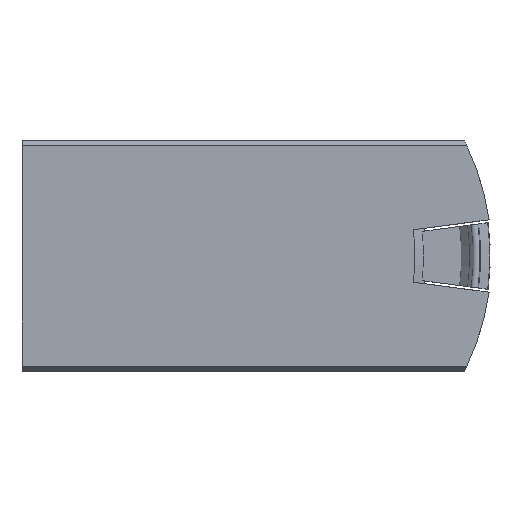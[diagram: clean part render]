
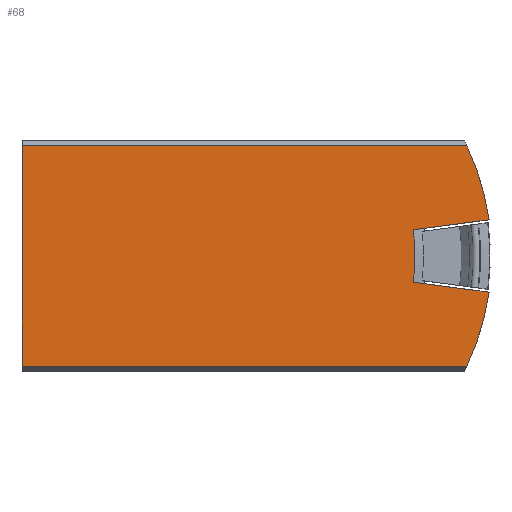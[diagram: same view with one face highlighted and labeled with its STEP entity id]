
A CAD part, top view. The second image highlights one B-rep face of the part: STEP entity #68.
In plain terms, the highlighted planar face has unit normal (0, 0, 1).
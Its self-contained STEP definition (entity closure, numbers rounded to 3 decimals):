
#55=PLANE('',#521);
#68=ADVANCED_FACE('',(#98),#55,.T.);
#98=FACE_OUTER_BOUND('',#124,.T.);
#124=EDGE_LOOP('',(#189,#190,#191,#192,#193,#194,#195,#196));
#153=CIRCLE('',#518,33.);
#154=CIRCLE('',#519,47.);
#155=CIRCLE('',#520,47.);
#189=ORIENTED_EDGE('',*,*,#380,.T.);
#190=ORIENTED_EDGE('',*,*,#381,.T.);
#191=ORIENTED_EDGE('',*,*,#382,.F.);
#192=ORIENTED_EDGE('',*,*,#383,.T.);
#193=ORIENTED_EDGE('',*,*,#384,.F.);
#194=ORIENTED_EDGE('',*,*,#385,.F.);
#195=ORIENTED_EDGE('',*,*,#386,.F.);
#196=ORIENTED_EDGE('',*,*,#387,.T.);
#331=VERTEX_POINT('',#748);
#332=VERTEX_POINT('',#749);
#333=VERTEX_POINT('',#751);
#334=VERTEX_POINT('',#753);
#335=VERTEX_POINT('',#755);
#336=VERTEX_POINT('',#757);
#337=VERTEX_POINT('',#759);
#338=VERTEX_POINT('',#761);
#380=EDGE_CURVE('',#331,#332,#153,.T.);
#381=EDGE_CURVE('',#332,#333,#447,.T.);
#382=EDGE_CURVE('',#334,#333,#154,.T.);
#383=EDGE_CURVE('',#334,#335,#448,.T.);
#384=EDGE_CURVE('',#336,#335,#449,.T.);
#385=EDGE_CURVE('',#337,#336,#450,.T.);
#386=EDGE_CURVE('',#338,#337,#155,.T.);
#387=EDGE_CURVE('',#338,#331,#451,.T.);
#447=LINE('',#750,#483);
#448=LINE('',#754,#484);
#449=LINE('',#756,#485);
#450=LINE('',#758,#486);
#451=LINE('',#762,#487);
#483=VECTOR('',#594,1.);
#484=VECTOR('',#597,1.);
#485=VECTOR('',#598,1.);
#486=VECTOR('',#599,1.);
#487=VECTOR('',#602,1.);
#518=AXIS2_PLACEMENT_3D('',#747,#592,#593);
#519=AXIS2_PLACEMENT_3D('',#752,#595,#596);
#520=AXIS2_PLACEMENT_3D('',#760,#600,#601);
#521=AXIS2_PLACEMENT_3D('',#763,#603,#604);
#592=DIRECTION('',(0.,0.,1.));
#593=DIRECTION('',(1.,0.,0.));
#594=DIRECTION('',(0.991,0.131,0.));
#595=DIRECTION('',(0.,0.,-1.));
#596=DIRECTION('',(1.,0.,0.));
#597=DIRECTION('',(-1.,0.,0.));
#598=DIRECTION('',(0.,1.,0.));
#599=DIRECTION('',(-1.,0.,0.));
#600=DIRECTION('',(0.,0.,-1.));
#601=DIRECTION('',(1.,0.,0.));
#602=DIRECTION('',(-0.991,0.131,0.));
#603=DIRECTION('',(0.,0.,1.));
#604=DIRECTION('',(1.,0.,0.));
#747=CARTESIAN_POINT('',(0.,0.,-23.1));
#748=CARTESIAN_POINT('',(32.649,-4.803,-23.1));
#749=CARTESIAN_POINT('',(32.649,4.803,-23.1));
#750=CARTESIAN_POINT('',(34.632,5.064,-23.1));
#751=CARTESIAN_POINT('',(46.53,6.63,-23.1));
#752=CARTESIAN_POINT('',(0.,0.,-23.1));
#753=CARTESIAN_POINT('',(42.463,20.146,-23.1));
#754=CARTESIAN_POINT('',(60.8,20.146,-23.1));
#755=CARTESIAN_POINT('',(-39.,20.146,-23.1));
#756=CARTESIAN_POINT('',(-39.,-20.146,-23.1));
#757=CARTESIAN_POINT('',(-39.,-20.146,-23.1));
#758=CARTESIAN_POINT('',(60.8,-20.146,-23.1));
#759=CARTESIAN_POINT('',(42.463,-20.146,-23.1));
#760=CARTESIAN_POINT('',(0.,0.,-23.1));
#761=CARTESIAN_POINT('',(46.53,-6.63,-23.1));
#762=CARTESIAN_POINT('',(46.53,-6.63,-23.1));
#763=CARTESIAN_POINT('',(60.8,-20.146,-23.1));
